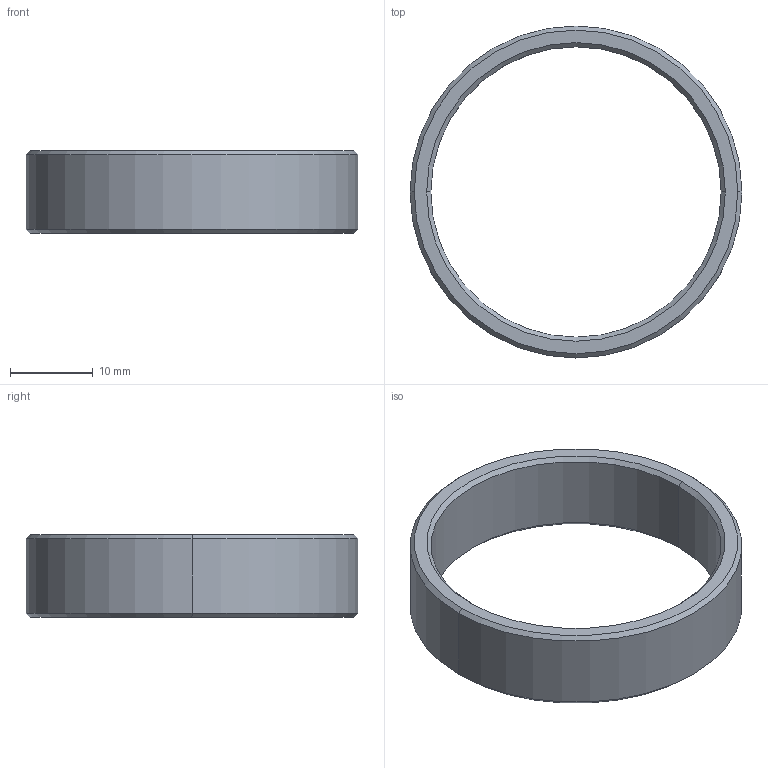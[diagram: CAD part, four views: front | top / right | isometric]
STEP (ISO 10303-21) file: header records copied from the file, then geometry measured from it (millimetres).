
FILE_DESCRIPTION (( 'STEP AP203' ), '1' );
FILE_NAME ('YWSD-2026-03-01-05=008 路杶III.STEP', '2026-07-24T07:41:36', ( 'Windows 蚚誧' ), ( '' ), 'SwSTEP 2.0', 'SolidWorks 2024', '' );
FILE_SCHEMA (( 'CONFIG_CONTROL_DESIGN' ));
Length unit declared in the file: millimetre
Products named in the file (1): YWSD-2026-03-01-05=008 隔套III
Bounding box: 40 x 40 x 10 mm (x, y, z)
Volume: 2886.3 mm3; surface area: 2807.2 mm2
Topology: 1 solids, 1 shells, 14 faces, 28 edges, 16 vertices
Faces by surface type: cone 8, cylinder 4, plane 2
Entity records: 445 total; most frequent: DIRECTION 74, CARTESIAN_POINT 59, ORIENTED_EDGE 56, AXIS2_PLACEMENT_3D 31, EDGE_CURVE 28, VERTEX_POINT 16, EDGE_LOOP 16, CIRCLE 16
